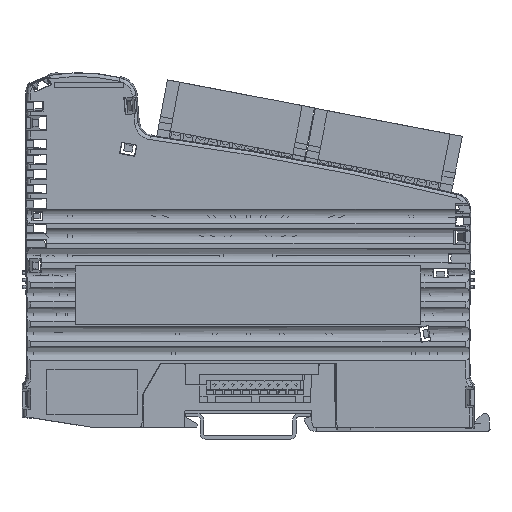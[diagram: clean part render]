
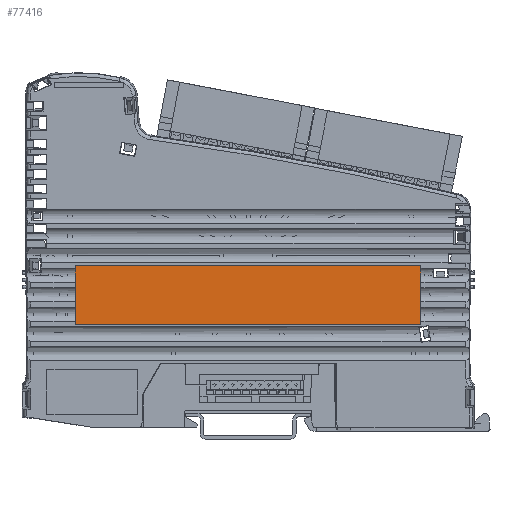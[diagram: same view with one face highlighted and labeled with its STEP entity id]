
A CAD part, left-side view. The second image highlights one B-rep face of the part: STEP entity #77416.
In plain terms, the highlighted planar face has unit normal (-1, 0, 0).
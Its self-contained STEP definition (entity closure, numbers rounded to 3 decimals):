
#7326=ORIENTED_EDGE('',*,*,#28521,.T.);
#7327=ORIENTED_EDGE('',*,*,#28520,.T.);
#7328=ORIENTED_EDGE('',*,*,#28523,.T.);
#7329=ORIENTED_EDGE('',*,*,#28515,.T.);
#7330=ORIENTED_EDGE('',*,*,#28517,.T.);
#7331=ORIENTED_EDGE('',*,*,#28518,.T.);
#7332=ORIENTED_EDGE('',*,*,#28524,.T.);
#7333=ORIENTED_EDGE('',*,*,#28525,.T.);
#7334=ORIENTED_EDGE('',*,*,#28526,.T.);
#7335=ORIENTED_EDGE('',*,*,#28522,.T.);
#28515=EDGE_CURVE('',#39392,#38526,#47229,.T.);
#28517=EDGE_CURVE('',#38526,#38533,#47231,.T.);
#28518=EDGE_CURVE('',#38533,#38536,#47232,.T.);
#28520=EDGE_CURVE('',#39389,#39393,#47234,.T.);
#28521=EDGE_CURVE('',#39390,#39389,#47235,.T.);
#28522=EDGE_CURVE('',#39391,#39390,#47236,.T.);
#28523=EDGE_CURVE('',#39393,#39392,#47237,.T.);
#28524=EDGE_CURVE('',#38536,#39394,#47238,.T.);
#28525=EDGE_CURVE('',#39394,#39395,#47239,.T.);
#28526=EDGE_CURVE('',#39395,#39391,#47240,.T.);
#38526=VERTEX_POINT('',#122562);
#38533=VERTEX_POINT('',#122667);
#38536=VERTEX_POINT('',#122774);
#39389=VERTEX_POINT('',#127633);
#39390=VERTEX_POINT('',#127637);
#39391=VERTEX_POINT('',#127641);
#39392=VERTEX_POINT('',#127646);
#39393=VERTEX_POINT('',#127654);
#39394=VERTEX_POINT('',#127663);
#39395=VERTEX_POINT('',#127665);
#47229=LINE('',#127645,#56459);
#47231=LINE('',#127649,#56461);
#47232=LINE('',#127651,#56462);
#47234=LINE('',#127655,#56464);
#47235=LINE('',#127657,#56465);
#47236=LINE('',#127659,#56466);
#47237=LINE('',#127661,#56467);
#47238=LINE('',#127662,#56468);
#47239=LINE('',#127664,#56469);
#47240=LINE('',#127666,#56470);
#56459=VECTOR('',#103789,1000.);
#56461=VECTOR('',#103793,1000.);
#56462=VECTOR('',#103796,1000.);
#56464=VECTOR('',#103800,1000.);
#56465=VECTOR('',#103803,1000.);
#56466=VECTOR('',#103806,1000.);
#56467=VECTOR('',#103809,1000.);
#56468=VECTOR('',#103810,1000.);
#56469=VECTOR('',#103811,1000.);
#56470=VECTOR('',#103812,1000.);
#64750=EDGE_LOOP('',(#7326,#7327,#7328,#7329,#7330,#7331,#7332,#7333,#7334,
#7335));
#69395=FACE_BOUND('',#64750,.T.);
#73849=PLANE('',#95421);
#77416=ADVANCED_FACE('',(#69395),#73849,.T.);
#95421=AXIS2_PLACEMENT_3D('',#127660,#103807,#103808);
#103789=DIRECTION('',(0.,0.,-1.));
#103793=DIRECTION('',(0.,0.,-1.));
#103796=DIRECTION('',(0.,0.,-1.));
#103800=DIRECTION('',(0.,0.,1.));
#103803=DIRECTION('',(0.,0.,1.));
#103806=DIRECTION('',(0.,0.,1.));
#103807=DIRECTION('',(-1.,0.,0.));
#103808=DIRECTION('',(0.,-1.,0.));
#103809=DIRECTION('',(0.,1.,0.));
#103810=DIRECTION('',(0.,0.,-1.));
#103811=DIRECTION('',(0.,-1.,0.));
#103812=DIRECTION('',(0.,0.,1.));
#122562=CARTESIAN_POINT('',(-11.5,48.483,42.8));
#122667=CARTESIAN_POINT('',(-11.5,48.483,37.3));
#122774=CARTESIAN_POINT('',(-11.5,48.483,31.8));
#127633=CARTESIAN_POINT('',(-11.5,-48.483,42.8));
#127637=CARTESIAN_POINT('',(-11.5,-48.483,37.3));
#127641=CARTESIAN_POINT('',(-11.5,-48.483,31.8));
#127645=CARTESIAN_POINT('',(-11.5,48.483,29.));
#127646=CARTESIAN_POINT('',(-11.5,48.483,45.483));
#127649=CARTESIAN_POINT('',(-11.5,48.483,29.));
#127651=CARTESIAN_POINT('',(-11.5,48.483,29.));
#127654=CARTESIAN_POINT('',(-11.5,-48.483,45.483));
#127655=CARTESIAN_POINT('',(-11.5,-48.483,29.));
#127657=CARTESIAN_POINT('',(-11.5,-48.483,29.));
#127659=CARTESIAN_POINT('',(-11.5,-48.483,29.));
#127660=CARTESIAN_POINT('',(-11.5,48.5,29.));
#127661=CARTESIAN_POINT('',(-11.5,48.5,45.483));
#127662=CARTESIAN_POINT('',(-11.5,48.483,29.));
#127663=CARTESIAN_POINT('',(-11.5,48.483,29.017));
#127664=CARTESIAN_POINT('',(-11.5,48.5,29.017));
#127665=CARTESIAN_POINT('',(-11.5,-48.483,29.017));
#127666=CARTESIAN_POINT('',(-11.5,-48.483,29.));
